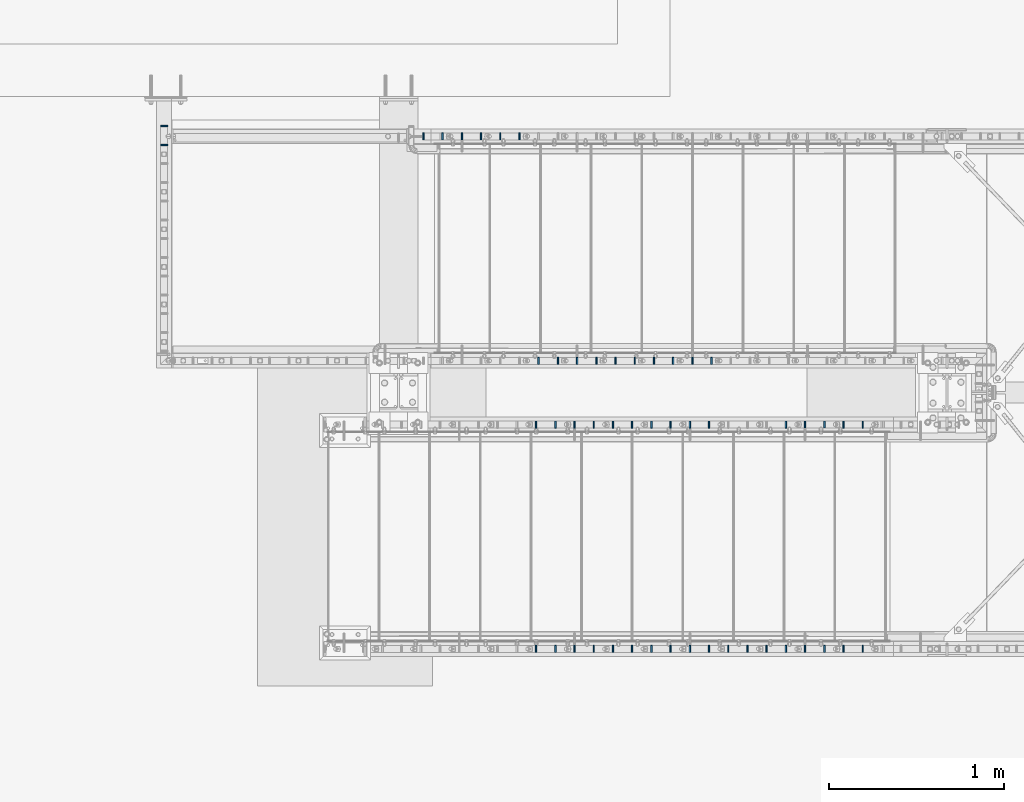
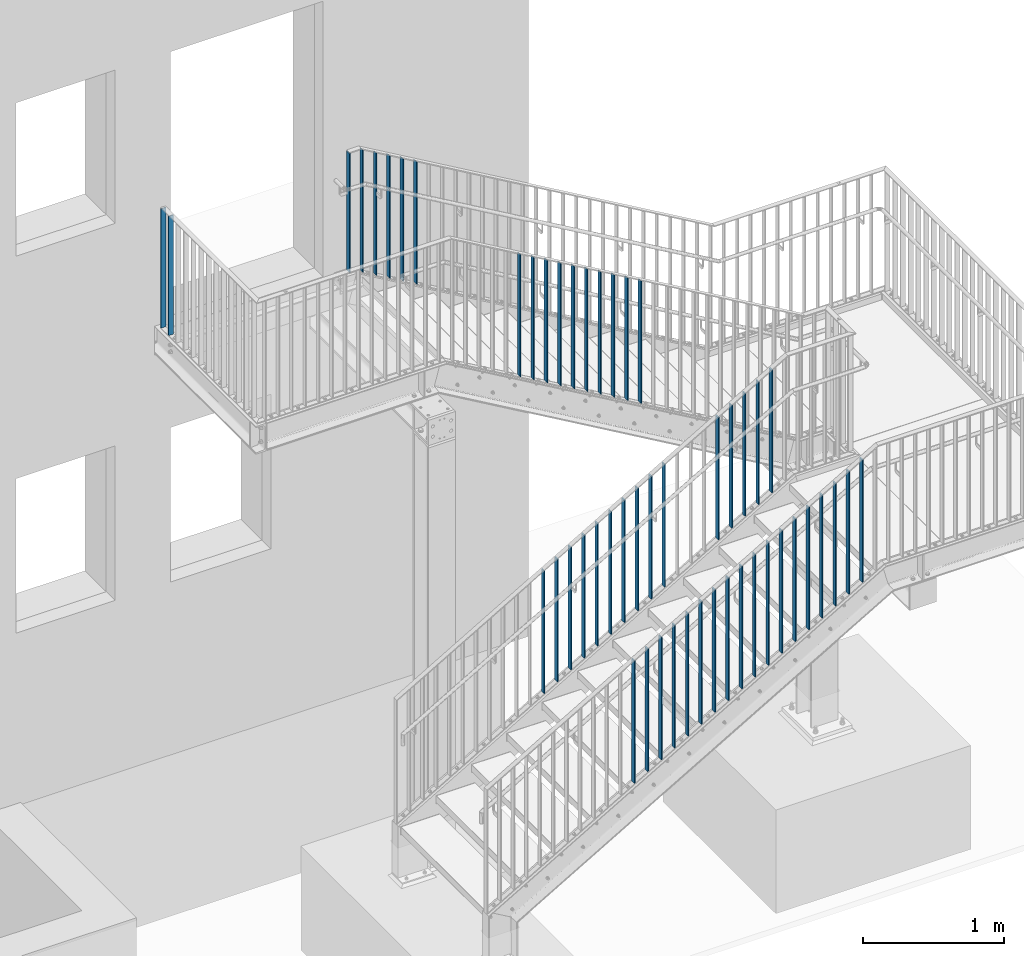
# One storey, part 2 of 145: 51 columns.
"""IFC2X3 building model written with IfcOpenShell, lengths in millimetres."""

import ifcopenshell
import ifcopenshell.guid

model = None  # the IFC model being written
_history = None  # IfcOwnerHistory: only IFC2X3 demands one
_inside = {}  # id of a spatial element -> (the spatial element, [elements in it])
_under = {}  # id of a project, library or spatial element -> (it, [spatial elements below it])
_declared = {}  # id of a project -> (the project, [libraries it declares])
_typed = {}  # id of a type object -> (the type object, [elements of that type])
_made_of = {}  # id of a material, layer set ... -> (it, [elements and type objects made of it])


def new_model(schema):
    """Start an empty IFC model of exactly this schema.

    Asked for "IFC4X3", IfcOpenShell would pick the latest addendum, in which some entities
    have other attributes; the version numbers below select the first issue.
    IFC2X3 requires an IfcOwnerHistory on every rooted entity: one is made here for all.
    """
    global model, _history
    if schema == "IFC4X3":
        model = ifcopenshell.file(schema_version=(4, 3, 0, 0))
    else:
        model = ifcopenshell.file(schema=schema)
    _inside.clear()
    _under.clear()
    _declared.clear()
    _typed.clear()
    _made_of.clear()
    _history = None
    if model.schema == "IFC2X3":
        org = make("IfcOrganization", Name="unknown")
        user = make(
            "IfcPersonAndOrganization",
            ThePerson=make("IfcPerson", FamilyName="unknown"),
            TheOrganization=org,
        )
        app = make(
            "IfcApplication",
            ApplicationDeveloper=org,
            Version="unknown",
            ApplicationFullName="unknown",
            ApplicationIdentifier="unknown",
        )
        _history = make(
            "IfcOwnerHistory",
            OwningUser=user,
            OwningApplication=app,
            ChangeAction="ADDED",
            CreationDate=0,
        )
    return model


def make(cls, **values):
    """One entity of the class cls with the attributes given. An attribute that is None is left unset."""
    return model.create_entity(
        cls, **{name: value for name, value in values.items() if value is not None}
    )


def entity(cls, *values):
    """Any entity or typed value of the class cls, its attributes in the order of the schema. None: left unset."""
    e = model.create_entity(cls)
    for i, value in enumerate(values):
        if value is not None:
            e[i] = value
    return e


def rooted(cls, **values):
    """An entity with a GlobalId (a new one), such as an element, a storey or a relation."""
    return make(cls, GlobalId=ifcopenshell.guid.new(), OwnerHistory=_history, **values)


def si_unit(unit_type, name, prefix=None):
    """IfcSIUnit, for example si_unit("LENGTHUNIT", "METRE", prefix="MILLI")."""
    return make("IfcSIUnit", UnitType=unit_type, Prefix=prefix, Name=name)


def converted_unit(unit_type, name, factor, base, dimensions=None, offset=None):
    """IfcConversionBasedUnit, such as the inch: factor (a typed value) times the base unit."""
    return make(
        "IfcConversionBasedUnit"
        if offset is None
        else "IfcConversionBasedUnitWithOffset",
        ConversionOffset=offset,
        Dimensions=None
        if dimensions is None
        else entity("IfcDimensionalExponents", *dimensions),
        UnitType=unit_type,
        Name=name,
        ConversionFactor=make(
            "IfcMeasureWithUnit", ValueComponent=factor, UnitComponent=base
        ),
    )


def assignment(units):
    """IfcUnitAssignment: the units of a project."""
    return None if units is None else make("IfcUnitAssignment", Units=units)


def point(xyz):
    """IfcCartesianPoint."""
    return None if xyz is None else make("IfcCartesianPoint", Coordinates=xyz)


def direction(xyz):
    """IfcDirection."""
    return None if xyz is None else make("IfcDirection", DirectionRatios=xyz)


def frame(location, z_axis=None, x_axis=None):
    """IfcAxis2Placement3D, a coordinate frame: its origin and axes. An axis left out is left unset."""
    return make(
        "IfcAxis2Placement3D",
        Location=point(location),
        Axis=direction(z_axis),
        RefDirection=direction(x_axis),
    )


def frame_2d(location, x_axis=None):
    """IfcAxis2Placement2D, a coordinate frame in the plane: its origin and x axis."""
    return make(
        "IfcAxis2Placement2D", Location=point(location), RefDirection=direction(x_axis)
    )


def origin():
    """The frame at (0, 0, 0) with its axes left unset."""
    return frame((0.0, 0.0, 0.0))


def origin_with_axes():
    """The frame at (0, 0, 0) with the z axis (0, 0, 1) and the x axis (1, 0, 0) written out."""
    return frame((0.0, 0.0, 0.0), z_axis=(0.0, 0.0, 1.0), x_axis=(1.0, 0.0, 0.0))


def origin_2d():
    """The frame at (0, 0) in the plane with its x axis left unset."""
    return frame_2d((0.0, 0.0))


def place(relative_to, where):
    """IfcLocalPlacement: puts the frame where relative to a parent placement (None: the world)."""
    return make(
        "IfcLocalPlacement", PlacementRelTo=relative_to, RelativePlacement=where
    )


def context(
    kind, dimensions, precision=None, world=None, true_north=None, identifier=None
):
    """IfcGeometricRepresentationContext, for example the 3D "Model" context."""
    return make(
        "IfcGeometricRepresentationContext",
        ContextIdentifier=identifier,
        ContextType=kind,
        CoordinateSpaceDimension=dimensions,
        Precision=precision,
        WorldCoordinateSystem=world,
        TrueNorth=true_north,
    )


def project(units=None, contexts=None):
    """IfcProject with its units and contexts."""
    return rooted(
        "IfcProject",
        Name="project",
        RepresentationContexts=contexts,
        UnitsInContext=assignment(units),
    )


def spatial(cls, under=None, at=None, **own):
    """A site, building, storey or space (cls), placed at a placement, below another one or the project."""
    s = rooted(cls, ObjectPlacement=at, **own)
    if under is not None:
        _under.setdefault(under.id(), (under, []))[1].append(s)
    return s


def profile(cls, at=None, kind="AREA", **sizes):
    """A parametric profile (cls). Its sizes go by their IFC names, for example OverallWidth=200.0."""
    return make(cls, ProfileType=kind, Position=at, **sizes)


def rectangle(**sizes):
    """IfcRectangleProfileDef."""
    return profile("IfcRectangleProfileDef", **sizes)


def extrude(swept, where, along, depth):
    """IfcExtrudedAreaSolid: the profile swept, set in the frame where, extruded along a direction by depth."""
    return make(
        "IfcExtrudedAreaSolid",
        SweptArea=swept,
        Position=where,
        ExtrudedDirection=direction(along),
        Depth=depth,
    )


def clip(a, b, op="DIFFERENCE"):
    """IfcBooleanClippingResult: the solid a cut by the half space b."""
    return make(
        "IfcBooleanClippingResult", Operator=op, FirstOperand=a, SecondOperand=b
    )


def halfspace(plane, agree):
    """IfcHalfSpaceSolid: all space on one side of the plane z = 0 of the frame plane."""
    return make(
        "IfcHalfSpaceSolid",
        BaseSurface=make("IfcPlane", Position=plane),
        AgreementFlag=agree,
    )


def shape(context_of_items, identifier, shape_type, items):
    """IfcShapeRepresentation: the items that make up one representation, for example the "Body"."""
    return make(
        "IfcShapeRepresentation",
        ContextOfItems=context_of_items,
        RepresentationIdentifier=identifier,
        RepresentationType=shape_type,
        Items=items,
    )


def material(Name=None, Category=None):
    """IfcMaterial."""
    return make("IfcMaterial", Name=Name, Category=Category)


def made_of(thing, what):
    """Note that an element or type object is made of a material, layer set ...; save() writes the relation."""
    if what is not None:
        _made_of.setdefault(what.id(), (what, []))[1].append(thing)
    return thing


def element(
    cls,
    number,
    at=None,
    inside=None,
    cuts=None,
    type_object=None,
    material=None,
    context=None,
    identifier="Body",
    shape_type=None,
    held_by="IfcProductDefinitionShape",
    body=None,
    shapes=None,
    **own,
):
    """One element of the class cls, such as IfcWall. Its Tag is "e" and its number.

    at: its placement. inside: the storey or other place that contains it. cuts: it is an
    opening in that element (IfcRelVoidsElement). A single representation is given by context,
    identifier, shape_type and body (its items); several are given by shapes. held_by: the class
    of the entity that holds the representations. save() writes the other relations.
    """
    e = rooted(cls, Tag="e%d" % number, ObjectPlacement=at, **own)
    if body is not None:
        shapes = [shape(context, identifier, shape_type, body)]
    if shapes is not None:
        e.Representation = make(held_by, Representations=shapes)
    if inside is not None:
        _inside.setdefault(inside.id(), (inside, []))[1].append(e)
    if cuts is not None:
        rooted(
            "IfcRelVoidsElement", RelatingBuildingElement=cuts, RelatedOpeningElement=e
        )
    if type_object is not None:
        _typed.setdefault(type_object.id(), (type_object, []))[1].append(e)
    return made_of(e, material)


def aggregate(whole, parts):
    """IfcRelAggregates: a whole, such as a stair, and the parts it consists of."""
    return rooted("IfcRelAggregates", RelatingObject=whole, RelatedObjects=parts)


def save(model, path):
    """Write the relations noted so far, then the file.

    IfcRelAggregates (storeys below a building ...), IfcRelContainedInSpatialStructure (elements
    in a storey), IfcRelDefinesByType, IfcRelAssociatesMaterial and IfcRelDeclares: one each for
    every whole, place, type object, material and project.
    """
    for whole, parts in _under.values():
        aggregate(whole, parts)
    for where, things in _inside.values():
        rooted(
            "IfcRelContainedInSpatialStructure",
            RelatedElements=things,
            RelatingStructure=where,
        )
    for kind, things in _typed.values():
        rooted("IfcRelDefinesByType", RelatedObjects=things, RelatingType=kind)
    for what, things in _made_of.values():
        rooted("IfcRelAssociatesMaterial", RelatedObjects=things, RelatingMaterial=what)
    for by, libraries in _declared.values():
        rooted("IfcRelDeclares", RelatingContext=by, RelatedDefinitions=libraries)
    model.write(path)


model = new_model("IFC2X3")

# Units and contexts
model_context = context("Model", 3, precision=1e-09, world=origin_with_axes())
ifc_project = project(units=[si_unit("LENGTHUNIT", "METRE", prefix="MILLI"), si_unit("AREAUNIT", "SQUARE_METRE"), si_unit("VOLUMEUNIT", "CUBIC_METRE"), converted_unit("PLANEANGLEUNIT", "DEGREE", entity("IfcPlaneAngleMeasure", 0.01745329), si_unit("PLANEANGLEUNIT", "RADIAN"), dimensions=[0, 0, 0, 0, 0, 0, 0])], contexts=[model_context])

# Site, building, storey
site_placement = place(None, origin_with_axes())
site = spatial("IfcSite", under=ifc_project, at=site_placement, Name="BZ1 Grund- und Mittelschule 85716 Unterschlei?heim", CompositionType="ELEMENT")
building_placement = place(site_placement, origin_with_axes())
building = spatial("IfcBuilding", under=site, at=building_placement, Name="Struktur 1", CompositionType="ELEMENT")
storey_placement = place(building_placement, origin_with_axes())
storey = spatial("IfcBuildingStorey", under=building, at=storey_placement, Name="Default Storey", CompositionType="ELEMENT", Elevation=0.0)

# Columns
ifc_material = material(Name="S235JR")
for number, where, z_axis, x_axis in (
    (1, (15728.34372732, -169.001, 3308.000000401), (0.0, 0.0, -1.0), (0.0, -1.0, 0.0)),
    (2, (15728.34372732, -276.397317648, 3308.000000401), (0.0, 0.0, -1.0), (0.0, -1.0, 0.0)),
):
    element("IfcColumn", number, at=place(None, frame(where, z_axis=z_axis, x_axis=x_axis)), inside=storey, material=ifc_material, Name="-", ObjectType="-", context=model_context, shape_type="SweptSolid", body=[
        extrude(rectangle(XDim=8.0, YDim=40.0, at=origin_2d()), origin(), (0.0, 0.0, -1.0), 1033.999999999),
    ])
column_1_placement = place(None, frame((18848.545893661, -3162.502, 984.303344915), z_axis=(0.0, 0.0, -1.0), x_axis=(1.0, 0.0, 0.0)))
element("IfcColumn", 3, at=column_1_placement, inside=storey, material=ifc_material, Name="-", ObjectType="-", context=model_context, shape_type="Clipping", body=[
    clip(clip(extrude(rectangle(XDim=8.0, YDim=40.0, at=origin_2d()), origin(), (0.0, 0.0, -1.0), 1108.679153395), halfspace(frame((-14523.541197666, -3162.502, 8421.912498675), z_axis=(-0.502691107, 0.0, -0.864466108), x_axis=(0.0, 1.0, 0.0)), True)), halfspace(frame((-14984.821312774, -3162.502, 7628.659901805), z_axis=(0.502691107, 0.0, 0.864466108), x_axis=(0.0, -1.0, 0.0)), True)),
])
column_2_placement = place(None, frame((18848.545893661, -1877.502, 984.303344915), z_axis=(0.0, 0.0, -1.0), x_axis=(-1.0, 0.0, 0.0)))
element("IfcColumn", 4, at=column_2_placement, inside=storey, material=ifc_material, Name="-", ObjectType="-", context=model_context, shape_type="Clipping", body=[
    clip(clip(extrude(rectangle(XDim=8.0, YDim=40.0, at=origin_2d()), origin(), (0.0, 0.0, -1.0), 1108.679153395), halfspace(frame((14523.541197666, 1877.502, 8421.912498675), z_axis=(0.502691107, 0.0, -0.864466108), x_axis=(0.0, -1.0, 0.0)), True)), halfspace(frame((14984.821312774, 1877.502, 7628.659901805), z_axis=(-0.502691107, 0.0, 0.864466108), x_axis=(0.0, 1.0, 0.0)), True)),
])
column_3_placement = place(None, frame((18298.545893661, -3162.502, 664.475758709), z_axis=(0.0, 0.0, -1.0), x_axis=(1.0, 0.0, 0.0)))
element("IfcColumn", 5, at=column_3_placement, inside=storey, material=ifc_material, Name="-", ObjectType="-", context=model_context, shape_type="Clipping", body=[
    clip(clip(extrude(rectangle(XDim=8.0, YDim=40.0, at=origin_2d()), origin(), (0.0, 0.0, -1.0), 1108.679153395), halfspace(frame((-13973.541197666, -3162.502, 8102.084912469), z_axis=(-0.502691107, 0.0, -0.864466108), x_axis=(0.0, 1.0, 0.0)), True)), halfspace(frame((-14434.821312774, -3162.502, 7308.832315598), z_axis=(0.502691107, 0.0, 0.864466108), x_axis=(0.0, -1.0, 0.0)), True)),
])
column_4_placement = place(None, frame((18298.545893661, -1877.502, 664.475758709), z_axis=(0.0, 0.0, -1.0), x_axis=(-1.0, 0.0, 0.0)))
element("IfcColumn", 6, at=column_4_placement, inside=storey, material=ifc_material, Name="-", ObjectType="-", context=model_context, shape_type="Clipping", body=[
    clip(clip(extrude(rectangle(XDim=8.0, YDim=40.0, at=origin_2d()), origin(), (0.0, 0.0, -1.0), 1108.679153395), halfspace(frame((13973.541197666, 1877.502, 8102.084912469), z_axis=(0.502691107, 0.0, -0.864466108), x_axis=(0.0, -1.0, 0.0)), True)), halfspace(frame((14434.821312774, 1877.502, 7308.832315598), z_axis=(-0.502691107, 0.0, 0.864466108), x_axis=(0.0, 1.0, 0.0)), True)),
])
column_5_placement = place(None, frame((19288.545893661, -3162.502, 1240.165413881), z_axis=(0.0, 0.0, -1.0), x_axis=(1.0, 0.0, 0.0)))
element("IfcColumn", 7, at=column_5_placement, inside=storey, material=ifc_material, Name="-", ObjectType="-", context=model_context, shape_type="Clipping", body=[
    clip(clip(extrude(rectangle(XDim=8.0, YDim=40.0, at=origin_2d()), origin(), (0.0, 0.0, -1.0), 1108.679153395), halfspace(frame((-14963.541197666, -3162.502, 8677.774567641), z_axis=(-0.502691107, 0.0, -0.864466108), x_axis=(0.0, 1.0, 0.0)), True)), halfspace(frame((-15424.821312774, -3162.502, 7884.521970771), z_axis=(0.502691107, 0.0, 0.864466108), x_axis=(0.0, -1.0, 0.0)), True)),
])
column_6_placement = place(None, frame((19288.545893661, -1877.502, 1240.165413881), z_axis=(0.0, 0.0, -1.0), x_axis=(-1.0, 0.0, 0.0)))
element("IfcColumn", 8, at=column_6_placement, inside=storey, material=ifc_material, Name="-", ObjectType="-", context=model_context, shape_type="Clipping", body=[
    clip(clip(extrude(rectangle(XDim=8.0, YDim=40.0, at=origin_2d()), origin(), (0.0, 0.0, -1.0), 1108.679153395), halfspace(frame((14963.541197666, 1877.502, 8677.774567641), z_axis=(0.502691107, 0.0, -0.864466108), x_axis=(0.0, -1.0, 0.0)), True)), halfspace(frame((15424.821312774, 1877.502, 7884.521970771), z_axis=(-0.502691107, 0.0, 0.864466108), x_axis=(0.0, 1.0, 0.0)), True)),
])
column_7_placement = place(None, frame((19398.545893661, -3162.497893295, 1304.130931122), z_axis=(0.0, 0.0, -1.0), x_axis=(1.0, 0.0, 0.0)))
element("IfcColumn", 9, at=column_7_placement, inside=storey, material=ifc_material, Name="-", ObjectType="-", context=model_context, shape_type="Clipping", body=[
    clip(clip(extrude(rectangle(XDim=8.0, YDim=40.0, at=origin_2d()), origin(), (0.0, 0.0, -1.0), 1108.679153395), halfspace(frame((-15073.541197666, -3162.497893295, 8741.740084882), z_axis=(-0.502691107, 0.0, -0.864466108), x_axis=(0.0, 1.0, 0.0)), True)), halfspace(frame((-15534.821312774, -3162.497893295, 7948.487488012), z_axis=(0.502691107, 0.0, 0.864466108), x_axis=(0.0, -1.0, 0.0)), True)),
])
column_8_placement = place(None, frame((19398.545893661, -1877.497893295, 1304.130931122), z_axis=(0.0, 0.0, -1.0), x_axis=(-1.0, 0.0, 0.0)))
element("IfcColumn", 10, at=column_8_placement, inside=storey, material=ifc_material, Name="-", ObjectType="-", context=model_context, shape_type="Clipping", body=[
    clip(clip(extrude(rectangle(XDim=8.0, YDim=40.0, at=origin_2d()), origin(), (0.0, 0.0, -1.0), 1108.679153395), halfspace(frame((15073.541197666, 1877.497893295, 8741.740084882), z_axis=(0.502691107, 0.0, -0.864466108), x_axis=(0.0, -1.0, 0.0)), True)), halfspace(frame((15534.821312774, 1877.497893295, 7948.487488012), z_axis=(-0.502691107, 0.0, 0.864466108), x_axis=(0.0, 1.0, 0.0)), True)),
])
column_9_placement = place(None, frame((19508.545893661, -3162.497893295, 1368.096448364), z_axis=(0.0, 0.0, -1.0), x_axis=(1.0, 0.0, 0.0)))
element("IfcColumn", 11, at=column_9_placement, inside=storey, material=ifc_material, Name="-", ObjectType="-", context=model_context, shape_type="Clipping", body=[
    clip(clip(extrude(rectangle(XDim=8.0, YDim=40.0, at=origin_2d()), origin(), (0.0, 0.0, -1.0), 1108.679153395), halfspace(frame((-15183.541197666, -3162.497893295, 8805.705602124), z_axis=(-0.502691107, 0.0, -0.864466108), x_axis=(0.0, 1.0, 0.0)), True)), halfspace(frame((-15644.821312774, -3162.497893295, 8012.453005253), z_axis=(0.502691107, 0.0, 0.864466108), x_axis=(0.0, -1.0, 0.0)), True)),
])
column_10_placement = place(None, frame((19508.545893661, -1877.497893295, 1368.096448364), z_axis=(0.0, 0.0, -1.0), x_axis=(-1.0, 0.0, 0.0)))
element("IfcColumn", 12, at=column_10_placement, inside=storey, material=ifc_material, Name="-", ObjectType="-", context=model_context, shape_type="Clipping", body=[
    clip(clip(extrude(rectangle(XDim=8.0, YDim=40.0, at=origin_2d()), origin(), (0.0, 0.0, -1.0), 1108.679153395), halfspace(frame((15183.541197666, 1877.497893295, 8805.705602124), z_axis=(0.502691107, 0.0, -0.864466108), x_axis=(0.0, -1.0, 0.0)), True)), halfspace(frame((15644.821312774, 1877.497893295, 8012.453005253), z_axis=(-0.502691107, 0.0, 0.864466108), x_axis=(0.0, 1.0, 0.0)), True)),
])
column_11_placement = place(None, frame((19618.545893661, -3162.502, 1432.061965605), z_axis=(0.0, 0.0, -1.0), x_axis=(1.0, 0.0, 0.0)))
element("IfcColumn", 13, at=column_11_placement, inside=storey, material=ifc_material, Name="-", ObjectType="-", context=model_context, shape_type="Clipping", body=[
    clip(clip(extrude(rectangle(XDim=8.0, YDim=40.0, at=origin_2d()), origin(), (0.0, 0.0, -1.0), 1108.679153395), halfspace(frame((-15293.541197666, -3162.502, 8869.671119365), z_axis=(-0.502691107, 0.0, -0.864466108), x_axis=(0.0, 1.0, 0.0)), True)), halfspace(frame((-15754.821312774, -3162.502, 8076.418522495), z_axis=(0.502691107, 0.0, 0.864466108), x_axis=(0.0, -1.0, 0.0)), True)),
])
column_12_placement = place(None, frame((19618.545893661, -1877.502, 1432.061965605), z_axis=(0.0, 0.0, -1.0), x_axis=(-1.0, 0.0, 0.0)))
element("IfcColumn", 14, at=column_12_placement, inside=storey, material=ifc_material, Name="-", ObjectType="-", context=model_context, shape_type="Clipping", body=[
    clip(clip(extrude(rectangle(XDim=8.0, YDim=40.0, at=origin_2d()), origin(), (0.0, 0.0, -1.0), 1108.679153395), halfspace(frame((15293.541197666, 1877.502, 8869.671119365), z_axis=(0.502691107, 0.0, -0.864466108), x_axis=(0.0, -1.0, 0.0)), True)), halfspace(frame((15754.821312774, 1877.502, 8076.418522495), z_axis=(-0.502691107, 0.0, 0.864466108), x_axis=(0.0, 1.0, 0.0)), True)),
])
column_13_placement = place(None, frame((19728.545893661, -3162.502, 1496.027482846), z_axis=(0.0, 0.0, -1.0), x_axis=(1.0, 0.0, 0.0)))
element("IfcColumn", 15, at=column_13_placement, inside=storey, material=ifc_material, Name="-", ObjectType="-", context=model_context, shape_type="Clipping", body=[
    clip(clip(extrude(rectangle(XDim=8.0, YDim=40.0, at=origin_2d()), origin(), (0.0, 0.0, -1.0), 1108.679153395), halfspace(frame((-15403.541197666, -3162.502, 8933.636636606), z_axis=(-0.502691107, 0.0, -0.864466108), x_axis=(0.0, 1.0, 0.0)), True)), halfspace(frame((-15864.821312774, -3162.502, 8140.384039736), z_axis=(0.502691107, 0.0, 0.864466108), x_axis=(0.0, -1.0, 0.0)), True)),
])
column_14_placement = place(None, frame((19728.545893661, -1877.502, 1496.027482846), z_axis=(0.0, 0.0, -1.0), x_axis=(-1.0, 0.0, 0.0)))
element("IfcColumn", 16, at=column_14_placement, inside=storey, material=ifc_material, Name="-", ObjectType="-", context=model_context, shape_type="Clipping", body=[
    clip(clip(extrude(rectangle(XDim=8.0, YDim=40.0, at=origin_2d()), origin(), (0.0, 0.0, -1.0), 1108.679153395), halfspace(frame((15403.541197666, 1877.502, 8933.636636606), z_axis=(0.502691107, 0.0, -0.864466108), x_axis=(0.0, -1.0, 0.0)), True)), halfspace(frame((15864.821312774, 1877.502, 8140.384039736), z_axis=(-0.502691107, 0.0, 0.864466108), x_axis=(0.0, 1.0, 0.0)), True)),
])
column_15_placement = place(None, frame((17213.141490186, -227.502, 3308.000000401), z_axis=(0.0, 0.0, -1.0), x_axis=(-1.0, 0.0, 0.0)))
element("IfcColumn", 17, at=column_15_placement, inside=storey, material=ifc_material, Name="-", ObjectType="-", context=model_context, shape_type="SweptSolid", body=[
    extrude(rectangle(XDim=8.0, YDim=40.0, at=origin_2d()), origin(), (0.0, 0.0, -1.0), 1033.999999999),
])
column_16_placement = place(None, frame((17323.141490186, -227.506106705, 3246.356636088), z_axis=(0.0, 0.0, -1.0), x_axis=(-1.0, 0.0, 0.0)))
element("IfcColumn", 18, at=column_16_placement, inside=storey, material=ifc_material, Name="-", ObjectType="-", context=model_context, shape_type="Clipping", body=[
    clip(clip(extrude(rectangle(XDim=8.0, YDim=40.0, at=origin_2d()), origin(), (0.0, 0.0, -1.0), 1108.679153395), halfspace(frame((11524.623942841, 227.506106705, -6725.218014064), z_axis=(-0.502691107, 0.0, -0.864466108), x_axis=(0.0, 1.0, 0.0)), True)), halfspace(frame((11063.343827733, 227.506106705, -7518.470610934), z_axis=(0.502691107, 0.0, 0.864466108), x_axis=(0.0, -1.0, 0.0)), True)),
])
column_17_placement = place(None, frame((17763.141490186, -227.506106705, 2990.494567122), z_axis=(0.0, 0.0, -1.0), x_axis=(-1.0, 0.0, 0.0)))
element("IfcColumn", 19, at=column_17_placement, inside=storey, material=ifc_material, Name="-", ObjectType="-", context=model_context, shape_type="Clipping", body=[
    clip(clip(extrude(rectangle(XDim=8.0, YDim=40.0, at=origin_2d()), origin(), (0.0, 0.0, -1.0), 1108.679153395), halfspace(frame((11964.623942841, 227.506106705, -6981.080083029), z_axis=(-0.502691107, 0.0, -0.864466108), x_axis=(0.0, 1.0, 0.0)), True)), halfspace(frame((11503.343827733, 227.506106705, -7774.3326799), z_axis=(0.502691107, 0.0, 0.864466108), x_axis=(0.0, -1.0, 0.0)), True)),
])
column_18_placement = place(None, frame((17653.141490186, -227.506106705, 3054.460084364), z_axis=(0.0, 0.0, -1.0), x_axis=(-1.0, 0.0, 0.0)))
element("IfcColumn", 20, at=column_18_placement, inside=storey, material=ifc_material, Name="-", ObjectType="-", context=model_context, shape_type="Clipping", body=[
    clip(clip(extrude(rectangle(XDim=8.0, YDim=40.0, at=origin_2d()), origin(), (0.0, 0.0, -1.0), 1108.679153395), halfspace(frame((11854.623942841, 227.506106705, -6917.114565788), z_axis=(-0.502691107, 0.0, -0.864466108), x_axis=(0.0, 1.0, 0.0)), True)), halfspace(frame((11393.343827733, 227.506106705, -7710.367162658), z_axis=(0.502691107, 0.0, 0.864466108), x_axis=(0.0, -1.0, 0.0)), True)),
])
column_19_placement = place(None, frame((17543.141490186, -227.502, 3118.425601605), z_axis=(0.0, 0.0, -1.0), x_axis=(-1.0, 0.0, 0.0)))
element("IfcColumn", 21, at=column_19_placement, inside=storey, material=ifc_material, Name="-", ObjectType="-", context=model_context, shape_type="Clipping", body=[
    clip(clip(extrude(rectangle(XDim=8.0, YDim=40.0, at=origin_2d()), origin(), (0.0, 0.0, -1.0), 1108.679153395), halfspace(frame((11744.623942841, 227.502, -6853.149048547), z_axis=(-0.502691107, 0.0, -0.864466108), x_axis=(0.0, 1.0, 0.0)), True)), halfspace(frame((11283.343827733, 227.502, -7646.401645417), z_axis=(0.502691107, 0.0, 0.864466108), x_axis=(0.0, -1.0, 0.0)), True)),
])
column_20_placement = place(None, frame((17433.141490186, -227.502, 3182.391118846), z_axis=(0.0, 0.0, -1.0), x_axis=(-1.0, 0.0, 0.0)))
element("IfcColumn", 22, at=column_20_placement, inside=storey, material=ifc_material, Name="-", ObjectType="-", context=model_context, shape_type="Clipping", body=[
    clip(clip(extrude(rectangle(XDim=8.0, YDim=40.0, at=origin_2d()), origin(), (0.0, 0.0, -1.0), 1108.679153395), halfspace(frame((11634.623942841, 227.502, -6789.183531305), z_axis=(-0.502691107, 0.0, -0.864466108), x_axis=(0.0, 1.0, 0.0)), True)), halfspace(frame((11173.343827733, 227.502, -7582.436128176), z_axis=(0.502691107, 0.0, 0.864466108), x_axis=(0.0, -1.0, 0.0)), True)),
])
column_21_placement = place(None, frame((18313.141490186, -1512.502, 2670.666980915), z_axis=(0.0, 0.0, -1.0), x_axis=(1.0, 0.0, 0.0)))
element("IfcColumn", 23, at=column_21_placement, inside=storey, material=ifc_material, Name="-", ObjectType="-", context=model_context, shape_type="Clipping", body=[
    clip(clip(extrude(rectangle(XDim=8.0, YDim=40.0, at=origin_2d()), origin(), (0.0, 0.0, -1.0), 1108.679153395), halfspace(frame((-12514.623942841, -1512.502, -7300.907669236), z_axis=(0.502691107, 0.0, -0.864466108), x_axis=(0.0, -1.0, 0.0)), True)), halfspace(frame((-12053.343827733, -1512.502, -8094.160266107), z_axis=(-0.502691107, 0.0, 0.864466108), x_axis=(0.0, 1.0, 0.0)), True)),
])
column_22_placement = place(None, frame((18863.141490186, -1512.502, 2350.839394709), z_axis=(0.0, 0.0, -1.0), x_axis=(1.0, 0.0, 0.0)))
element("IfcColumn", 24, at=column_22_placement, inside=storey, material=ifc_material, Name="-", ObjectType="-", context=model_context, shape_type="Clipping", body=[
    clip(clip(extrude(rectangle(XDim=8.0, YDim=40.0, at=origin_2d()), origin(), (0.0, 0.0, -1.0), 1108.679153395), halfspace(frame((-13064.623942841, -1512.502, -7620.735255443), z_axis=(0.502691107, 0.0, -0.864466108), x_axis=(0.0, -1.0, 0.0)), True)), halfspace(frame((-12603.343827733, -1512.502, -8413.987852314), z_axis=(-0.502691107, 0.0, 0.864466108), x_axis=(0.0, 1.0, 0.0)), True)),
])
column_23_placement = place(None, frame((17873.141490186, -1512.502, 2926.529049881), z_axis=(0.0, 0.0, -1.0), x_axis=(1.0, 0.0, 0.0)))
element("IfcColumn", 25, at=column_23_placement, inside=storey, material=ifc_material, Name="-", ObjectType="-", context=model_context, shape_type="Clipping", body=[
    clip(clip(extrude(rectangle(XDim=8.0, YDim=40.0, at=origin_2d()), origin(), (0.0, 0.0, -1.0), 1108.679153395), halfspace(frame((-12074.623942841, -1512.502, -7045.045600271), z_axis=(0.502691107, 0.0, -0.864466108), x_axis=(0.0, -1.0, 0.0)), True)), halfspace(frame((-11613.343827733, -1512.502, -7838.298197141), z_axis=(-0.502691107, 0.0, 0.864466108), x_axis=(0.0, 1.0, 0.0)), True)),
])
column_24_placement = place(None, frame((18753.141490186, -1512.502, 2414.80491195), z_axis=(0.0, 0.0, -1.0), x_axis=(1.0, 0.0, 0.0)))
element("IfcColumn", 26, at=column_24_placement, inside=storey, material=ifc_material, Name="-", ObjectType="-", context=model_context, shape_type="Clipping", body=[
    clip(clip(extrude(rectangle(XDim=8.0, YDim=40.0, at=origin_2d()), origin(), (0.0, 0.0, -1.0), 1108.679153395), halfspace(frame((-12954.623942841, -1512.502, -7556.769738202), z_axis=(0.502691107, 0.0, -0.864466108), x_axis=(0.0, -1.0, 0.0)), True)), halfspace(frame((-12493.343827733, -1512.502, -8350.022335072), z_axis=(-0.502691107, 0.0, 0.864466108), x_axis=(0.0, 1.0, 0.0)), True)),
])
column_25_placement = place(None, frame((18643.141490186, -1512.502, 2478.770429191), z_axis=(0.0, 0.0, -1.0), x_axis=(1.0, 0.0, 0.0)))
element("IfcColumn", 27, at=column_25_placement, inside=storey, material=ifc_material, Name="-", ObjectType="-", context=model_context, shape_type="Clipping", body=[
    clip(clip(extrude(rectangle(XDim=8.0, YDim=40.0, at=origin_2d()), origin(), (0.0, 0.0, -1.0), 1108.679153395), halfspace(frame((-12844.623942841, -1512.502, -7492.804220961), z_axis=(0.502691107, 0.0, -0.864466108), x_axis=(0.0, -1.0, 0.0)), True)), halfspace(frame((-12383.343827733, -1512.502, -8286.056817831), z_axis=(-0.502691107, 0.0, 0.864466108), x_axis=(0.0, 1.0, 0.0)), True)),
])
column_26_placement = place(None, frame((18533.141490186, -1512.502, 2542.735946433), z_axis=(0.0, 0.0, -1.0), x_axis=(1.0, 0.0, 0.0)))
element("IfcColumn", 28, at=column_26_placement, inside=storey, material=ifc_material, Name="-", ObjectType="-", context=model_context, shape_type="Clipping", body=[
    clip(clip(extrude(rectangle(XDim=8.0, YDim=40.0, at=origin_2d()), origin(), (0.0, 0.0, -1.0), 1108.679153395), halfspace(frame((-12734.623942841, -1512.502, -7428.838703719), z_axis=(0.502691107, 0.0, -0.864466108), x_axis=(0.0, -1.0, 0.0)), True)), halfspace(frame((-12273.343827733, -1512.502, -8222.09130059), z_axis=(-0.502691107, 0.0, 0.864466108), x_axis=(0.0, 1.0, 0.0)), True)),
])
column_27_placement = place(None, frame((18423.141490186, -1512.502, 2606.701463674), z_axis=(0.0, 0.0, -1.0), x_axis=(1.0, 0.0, 0.0)))
element("IfcColumn", 29, at=column_27_placement, inside=storey, material=ifc_material, Name="-", ObjectType="-", context=model_context, shape_type="Clipping", body=[
    clip(clip(extrude(rectangle(XDim=8.0, YDim=40.0, at=origin_2d()), origin(), (0.0, 0.0, -1.0), 1108.679153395), halfspace(frame((-12624.623942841, -1512.502, -7364.873186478), z_axis=(0.502691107, 0.0, -0.864466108), x_axis=(0.0, -1.0, 0.0)), True)), halfspace(frame((-12163.343827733, -1512.502, -8158.125783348), z_axis=(-0.502691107, 0.0, 0.864466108), x_axis=(0.0, 1.0, 0.0)), True)),
])
column_28_placement = place(None, frame((18203.141490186, -1512.502, 2734.632498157), z_axis=(0.0, 0.0, -1.0), x_axis=(1.0, 0.0, 0.0)))
element("IfcColumn", 30, at=column_28_placement, inside=storey, material=ifc_material, Name="-", ObjectType="-", context=model_context, shape_type="Clipping", body=[
    clip(clip(extrude(rectangle(XDim=8.0, YDim=40.0, at=origin_2d()), origin(), (0.0, 0.0, -1.0), 1108.679153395), halfspace(frame((-12404.623942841, -1512.502, -7236.942151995), z_axis=(0.502691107, 0.0, -0.864466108), x_axis=(0.0, -1.0, 0.0)), True)), halfspace(frame((-11943.343827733, -1512.502, -8030.194748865), z_axis=(-0.502691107, 0.0, 0.864466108), x_axis=(0.0, 1.0, 0.0)), True)),
])
column_29_placement = place(None, frame((18093.141490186, -1512.502, 2798.598015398), z_axis=(0.0, 0.0, -1.0), x_axis=(1.0, 0.0, 0.0)))
element("IfcColumn", 31, at=column_29_placement, inside=storey, material=ifc_material, Name="-", ObjectType="-", context=model_context, shape_type="Clipping", body=[
    clip(clip(extrude(rectangle(XDim=8.0, YDim=40.0, at=origin_2d()), origin(), (0.0, 0.0, -1.0), 1108.679153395), halfspace(frame((-12294.623942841, -1512.502, -7172.976634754), z_axis=(0.502691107, 0.0, -0.864466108), x_axis=(0.0, -1.0, 0.0)), True)), halfspace(frame((-11833.343827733, -1512.502, -7966.229231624), z_axis=(-0.502691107, 0.0, 0.864466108), x_axis=(0.0, 1.0, 0.0)), True)),
])
column_30_placement = place(None, frame((17983.141490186, -1512.502, 2862.56353264), z_axis=(0.0, 0.0, -1.0), x_axis=(1.0, 0.0, 0.0)))
element("IfcColumn", 32, at=column_30_placement, inside=storey, material=ifc_material, Name="-", ObjectType="-", context=model_context, shape_type="Clipping", body=[
    clip(clip(extrude(rectangle(XDim=8.0, YDim=40.0, at=origin_2d()), origin(), (0.0, 0.0, -1.0), 1108.679153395), halfspace(frame((-12184.623942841, -1512.502, -7109.011117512), z_axis=(0.502691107, 0.0, -0.864466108), x_axis=(0.0, -1.0, 0.0)), True)), halfspace(frame((-11723.343827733, -1512.502, -7902.263714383), z_axis=(-0.502691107, 0.0, 0.864466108), x_axis=(0.0, 1.0, 0.0)), True)),
])
column_31_placement = place(None, frame((19068.545893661, -3162.502, 1112.234379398), z_axis=(0.0, 0.0, -1.0), x_axis=(1.0, 0.0, 0.0)))
element("IfcColumn", 33, at=column_31_placement, inside=storey, material=ifc_material, Name="-", ObjectType="-", context=model_context, shape_type="Clipping", body=[
    clip(clip(extrude(rectangle(XDim=8.0, YDim=40.0, at=origin_2d()), origin(), (0.0, 0.0, -1.0), 1108.679153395), halfspace(frame((-14743.541197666, -3162.502, 8549.843533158), z_axis=(-0.502691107, 0.0, -0.864466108), x_axis=(0.0, 1.0, 0.0)), True)), halfspace(frame((-15204.821312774, -3162.502, 7756.590936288), z_axis=(0.502691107, 0.0, 0.864466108), x_axis=(0.0, -1.0, 0.0)), True)),
])
column_32_placement = place(None, frame((19178.545893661, -3162.502, 1176.19989664), z_axis=(0.0, 0.0, -1.0), x_axis=(1.0, 0.0, 0.0)))
element("IfcColumn", 34, at=column_32_placement, inside=storey, material=ifc_material, Name="-", ObjectType="-", context=model_context, shape_type="Clipping", body=[
    clip(clip(extrude(rectangle(XDim=8.0, YDim=40.0, at=origin_2d()), origin(), (0.0, 0.0, -1.0), 1108.679153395), halfspace(frame((-14853.541197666, -3162.502, 8613.8090504), z_axis=(-0.502691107, 0.0, -0.864466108), x_axis=(0.0, 1.0, 0.0)), True)), halfspace(frame((-15314.821312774, -3162.502, 7820.556453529), z_axis=(0.502691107, 0.0, 0.864466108), x_axis=(0.0, -1.0, 0.0)), True)),
])
column_33_placement = place(None, frame((17858.545893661, -3162.502, 408.613689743), z_axis=(0.0, 0.0, -1.0), x_axis=(1.0, 0.0, 0.0)))
element("IfcColumn", 35, at=column_33_placement, inside=storey, material=ifc_material, Name="-", ObjectType="-", context=model_context, shape_type="Clipping", body=[
    clip(clip(extrude(rectangle(XDim=8.0, YDim=40.0, at=origin_2d()), origin(), (0.0, 0.0, -1.0), 1108.679153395), halfspace(frame((-13533.541197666, -3162.502, 7846.222843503), z_axis=(-0.502691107, 0.0, -0.864466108), x_axis=(0.0, 1.0, 0.0)), True)), halfspace(frame((-13994.821312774, -3162.502, 7052.970246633), z_axis=(0.502691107, 0.0, 0.864466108), x_axis=(0.0, -1.0, 0.0)), True)),
])
column_34_placement = place(None, frame((17858.545893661, -1877.502, 408.613689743), z_axis=(0.0, 0.0, -1.0), x_axis=(-1.0, 0.0, 0.0)))
element("IfcColumn", 36, at=column_34_placement, inside=storey, material=ifc_material, Name="-", ObjectType="-", context=model_context, shape_type="Clipping", body=[
    clip(clip(extrude(rectangle(XDim=8.0, YDim=40.0, at=origin_2d()), origin(), (0.0, 0.0, -1.0), 1108.679153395), halfspace(frame((13533.541197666, 1877.502, 7846.222843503), z_axis=(0.502691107, 0.0, -0.864466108), x_axis=(0.0, -1.0, 0.0)), True)), halfspace(frame((13994.821312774, 1877.502, 7052.970246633), z_axis=(-0.502691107, 0.0, 0.864466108), x_axis=(0.0, 1.0, 0.0)), True)),
])
column_35_placement = place(None, frame((17968.545893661, -3162.502, 472.579206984), z_axis=(0.0, 0.0, -1.0), x_axis=(1.0, 0.0, 0.0)))
element("IfcColumn", 37, at=column_35_placement, inside=storey, material=ifc_material, Name="-", ObjectType="-", context=model_context, shape_type="Clipping", body=[
    clip(clip(extrude(rectangle(XDim=8.0, YDim=40.0, at=origin_2d()), origin(), (0.0, 0.0, -1.0), 1108.679153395), halfspace(frame((-13643.541197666, -3162.502, 7910.188360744), z_axis=(-0.502691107, 0.0, -0.864466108), x_axis=(0.0, 1.0, 0.0)), True)), halfspace(frame((-14104.821312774, -3162.502, 7116.935763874), z_axis=(0.502691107, 0.0, 0.864466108), x_axis=(0.0, -1.0, 0.0)), True)),
])
column_36_placement = place(None, frame((17968.545893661, -1877.502, 472.579206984), z_axis=(0.0, 0.0, -1.0), x_axis=(-1.0, 0.0, 0.0)))
element("IfcColumn", 38, at=column_36_placement, inside=storey, material=ifc_material, Name="-", ObjectType="-", context=model_context, shape_type="Clipping", body=[
    clip(clip(extrude(rectangle(XDim=8.0, YDim=40.0, at=origin_2d()), origin(), (0.0, 0.0, -1.0), 1108.679153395), halfspace(frame((13643.541197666, 1877.502, 7910.188360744), z_axis=(0.502691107, 0.0, -0.864466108), x_axis=(0.0, -1.0, 0.0)), True)), halfspace(frame((14104.821312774, 1877.502, 7116.935763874), z_axis=(-0.502691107, 0.0, 0.864466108), x_axis=(0.0, 1.0, 0.0)), True)),
])
column_37_placement = place(None, frame((18078.545893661, -3162.502, 536.544724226), z_axis=(0.0, 0.0, -1.0), x_axis=(1.0, 0.0, 0.0)))
element("IfcColumn", 39, at=column_37_placement, inside=storey, material=ifc_material, Name="-", ObjectType="-", context=model_context, shape_type="Clipping", body=[
    clip(clip(extrude(rectangle(XDim=8.0, YDim=40.0, at=origin_2d()), origin(), (0.0, 0.0, -1.0), 1108.679153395), halfspace(frame((-13753.541197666, -3162.502, 7974.153877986), z_axis=(-0.502691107, 0.0, -0.864466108), x_axis=(0.0, 1.0, 0.0)), True)), halfspace(frame((-14214.821312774, -3162.502, 7180.901281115), z_axis=(0.502691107, 0.0, 0.864466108), x_axis=(0.0, -1.0, 0.0)), True)),
])
column_38_placement = place(None, frame((18078.545893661, -1877.502, 536.544724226), z_axis=(0.0, 0.0, -1.0), x_axis=(-1.0, 0.0, 0.0)))
element("IfcColumn", 40, at=column_38_placement, inside=storey, material=ifc_material, Name="-", ObjectType="-", context=model_context, shape_type="Clipping", body=[
    clip(clip(extrude(rectangle(XDim=8.0, YDim=40.0, at=origin_2d()), origin(), (0.0, 0.0, -1.0), 1108.679153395), halfspace(frame((13753.541197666, 1877.502, 7974.153877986), z_axis=(0.502691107, 0.0, -0.864466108), x_axis=(0.0, -1.0, 0.0)), True)), halfspace(frame((14214.821312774, 1877.502, 7180.901281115), z_axis=(-0.502691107, 0.0, 0.864466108), x_axis=(0.0, 1.0, 0.0)), True)),
])
column_39_placement = place(None, frame((18188.545893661, -3162.502, 600.510241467), z_axis=(0.0, 0.0, -1.0), x_axis=(1.0, 0.0, 0.0)))
element("IfcColumn", 41, at=column_39_placement, inside=storey, material=ifc_material, Name="-", ObjectType="-", context=model_context, shape_type="Clipping", body=[
    clip(clip(extrude(rectangle(XDim=8.0, YDim=40.0, at=origin_2d()), origin(), (0.0, 0.0, -1.0), 1108.679153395), halfspace(frame((-13863.541197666, -3162.502, 8038.119395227), z_axis=(-0.502691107, 0.0, -0.864466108), x_axis=(0.0, 1.0, 0.0)), True)), halfspace(frame((-14324.821312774, -3162.502, 7244.866798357), z_axis=(0.502691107, 0.0, 0.864466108), x_axis=(0.0, -1.0, 0.0)), True)),
])
column_40_placement = place(None, frame((18188.545893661, -1877.502, 600.510241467), z_axis=(0.0, 0.0, -1.0), x_axis=(-1.0, 0.0, 0.0)))
element("IfcColumn", 42, at=column_40_placement, inside=storey, material=ifc_material, Name="-", ObjectType="-", context=model_context, shape_type="Clipping", body=[
    clip(clip(extrude(rectangle(XDim=8.0, YDim=40.0, at=origin_2d()), origin(), (0.0, 0.0, -1.0), 1108.679153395), halfspace(frame((13863.541197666, 1877.502, 8038.119395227), z_axis=(0.502691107, 0.0, -0.864466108), x_axis=(0.0, -1.0, 0.0)), True)), halfspace(frame((14324.821312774, 1877.502, 7244.866798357), z_axis=(-0.502691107, 0.0, 0.864466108), x_axis=(0.0, 1.0, 0.0)), True)),
])
column_41_placement = place(None, frame((18408.545893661, -3162.502, 728.44127595), z_axis=(0.0, 0.0, -1.0), x_axis=(1.0, 0.0, 0.0)))
element("IfcColumn", 43, at=column_41_placement, inside=storey, material=ifc_material, Name="-", ObjectType="-", context=model_context, shape_type="Clipping", body=[
    clip(clip(extrude(rectangle(XDim=8.0, YDim=40.0, at=origin_2d()), origin(), (0.0, 0.0, -1.0), 1108.679153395), halfspace(frame((-14083.541197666, -3162.502, 8166.05042971), z_axis=(-0.502691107, 0.0, -0.864466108), x_axis=(0.0, 1.0, 0.0)), True)), halfspace(frame((-14544.821312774, -3162.502, 7372.79783284), z_axis=(0.502691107, 0.0, 0.864466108), x_axis=(0.0, -1.0, 0.0)), True)),
])
column_42_placement = place(None, frame((18408.545893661, -1877.502, 728.44127595), z_axis=(0.0, 0.0, -1.0), x_axis=(-1.0, 0.0, 0.0)))
element("IfcColumn", 44, at=column_42_placement, inside=storey, material=ifc_material, Name="-", ObjectType="-", context=model_context, shape_type="Clipping", body=[
    clip(clip(extrude(rectangle(XDim=8.0, YDim=40.0, at=origin_2d()), origin(), (0.0, 0.0, -1.0), 1108.679153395), halfspace(frame((14083.541197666, 1877.502, 8166.05042971), z_axis=(0.502691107, 0.0, -0.864466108), x_axis=(0.0, -1.0, 0.0)), True)), halfspace(frame((14544.821312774, 1877.502, 7372.79783284), z_axis=(-0.502691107, 0.0, 0.864466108), x_axis=(0.0, 1.0, 0.0)), True)),
])
column_43_placement = place(None, frame((18518.545893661, -3162.502, 792.406793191), z_axis=(0.0, 0.0, -1.0), x_axis=(1.0, 0.0, 0.0)))
element("IfcColumn", 45, at=column_43_placement, inside=storey, material=ifc_material, Name="-", ObjectType="-", context=model_context, shape_type="Clipping", body=[
    clip(clip(extrude(rectangle(XDim=8.0, YDim=40.0, at=origin_2d()), origin(), (0.0, 0.0, -1.0), 1108.679153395), halfspace(frame((-14193.541197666, -3162.502, 8230.015946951), z_axis=(-0.502691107, 0.0, -0.864466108), x_axis=(0.0, 1.0, 0.0)), True)), halfspace(frame((-14654.821312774, -3162.502, 7436.763350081), z_axis=(0.502691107, 0.0, 0.864466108), x_axis=(0.0, -1.0, 0.0)), True)),
])
column_44_placement = place(None, frame((18518.545893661, -1877.502, 792.406793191), z_axis=(0.0, 0.0, -1.0), x_axis=(-1.0, 0.0, 0.0)))
element("IfcColumn", 46, at=column_44_placement, inside=storey, material=ifc_material, Name="-", ObjectType="-", context=model_context, shape_type="Clipping", body=[
    clip(clip(extrude(rectangle(XDim=8.0, YDim=40.0, at=origin_2d()), origin(), (0.0, 0.0, -1.0), 1108.679153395), halfspace(frame((14193.541197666, 1877.502, 8230.015946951), z_axis=(0.502691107, 0.0, -0.864466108), x_axis=(0.0, -1.0, 0.0)), True)), halfspace(frame((14654.821312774, 1877.502, 7436.763350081), z_axis=(-0.502691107, 0.0, 0.864466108), x_axis=(0.0, 1.0, 0.0)), True)),
])
column_45_placement = place(None, frame((18628.545893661, -3162.502, 856.372310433), z_axis=(0.0, 0.0, -1.0), x_axis=(1.0, 0.0, 0.0)))
element("IfcColumn", 47, at=column_45_placement, inside=storey, material=ifc_material, Name="-", ObjectType="-", context=model_context, shape_type="Clipping", body=[
    clip(clip(extrude(rectangle(XDim=8.0, YDim=40.0, at=origin_2d()), origin(), (0.0, 0.0, -1.0), 1108.679153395), halfspace(frame((-14303.541197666, -3162.502, 8293.981464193), z_axis=(-0.502691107, 0.0, -0.864466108), x_axis=(0.0, 1.0, 0.0)), True)), halfspace(frame((-14764.821312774, -3162.502, 7500.728867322), z_axis=(0.502691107, 0.0, 0.864466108), x_axis=(0.0, -1.0, 0.0)), True)),
])
column_46_placement = place(None, frame((18628.545893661, -1877.502, 856.372310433), z_axis=(0.0, 0.0, -1.0), x_axis=(-1.0, 0.0, 0.0)))
element("IfcColumn", 48, at=column_46_placement, inside=storey, material=ifc_material, Name="-", ObjectType="-", context=model_context, shape_type="Clipping", body=[
    clip(clip(extrude(rectangle(XDim=8.0, YDim=40.0, at=origin_2d()), origin(), (0.0, 0.0, -1.0), 1108.679153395), halfspace(frame((14303.541197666, 1877.502, 8293.981464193), z_axis=(0.502691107, 0.0, -0.864466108), x_axis=(0.0, -1.0, 0.0)), True)), halfspace(frame((14764.821312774, 1877.502, 7500.728867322), z_axis=(-0.502691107, 0.0, 0.864466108), x_axis=(0.0, 1.0, 0.0)), True)),
])
column_47_placement = place(None, frame((18738.545893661, -3162.502, 920.337827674), z_axis=(0.0, 0.0, -1.0), x_axis=(1.0, 0.0, 0.0)))
element("IfcColumn", 49, at=column_47_placement, inside=storey, material=ifc_material, Name="-", ObjectType="-", context=model_context, shape_type="Clipping", body=[
    clip(clip(extrude(rectangle(XDim=8.0, YDim=40.0, at=origin_2d()), origin(), (0.0, 0.0, -1.0), 1108.679153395), halfspace(frame((-14413.541197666, -3162.502, 8357.946981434), z_axis=(-0.502691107, 0.0, -0.864466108), x_axis=(0.0, 1.0, 0.0)), True)), halfspace(frame((-14874.821312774, -3162.502, 7564.694384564), z_axis=(0.502691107, 0.0, 0.864466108), x_axis=(0.0, -1.0, 0.0)), True)),
])
column_48_placement = place(None, frame((18738.545893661, -1877.502, 920.337827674), z_axis=(0.0, 0.0, -1.0), x_axis=(-1.0, 0.0, 0.0)))
element("IfcColumn", 50, at=column_48_placement, inside=storey, material=ifc_material, Name="-", ObjectType="-", context=model_context, shape_type="Clipping", body=[
    clip(clip(extrude(rectangle(XDim=8.0, YDim=40.0, at=origin_2d()), origin(), (0.0, 0.0, -1.0), 1108.679153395), halfspace(frame((14413.541197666, 1877.502, 8357.946981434), z_axis=(0.502691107, 0.0, -0.864466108), x_axis=(0.0, -1.0, 0.0)), True)), halfspace(frame((14874.821312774, 1877.502, 7564.694384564), z_axis=(-0.502691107, 0.0, 0.864466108), x_axis=(0.0, 1.0, 0.0)), True)),
])
column_49_placement = place(None, frame((18958.545893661, -3162.502, 1048.268862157), z_axis=(0.0, 0.0, -1.0), x_axis=(1.0, 0.0, 0.0)))
element("IfcColumn", 51, at=column_49_placement, inside=storey, material=ifc_material, Name="-", ObjectType="-", context=model_context, shape_type="Clipping", body=[
    clip(clip(extrude(rectangle(XDim=8.0, YDim=40.0, at=origin_2d()), origin(), (0.0, 0.0, -1.0), 1108.679153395), halfspace(frame((-14633.541197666, -3162.502, 8485.878015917), z_axis=(-0.502691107, 0.0, -0.864466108), x_axis=(0.0, 1.0, 0.0)), True)), halfspace(frame((-15094.821312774, -3162.502, 7692.625419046), z_axis=(0.502691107, 0.0, 0.864466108), x_axis=(0.0, -1.0, 0.0)), True)),
])

save(model, "model.ifc")
